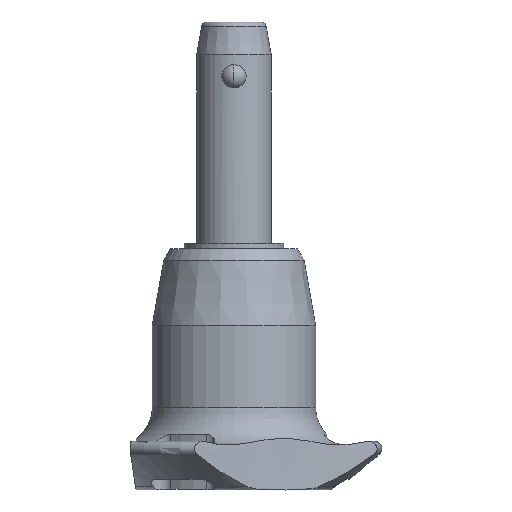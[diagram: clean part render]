
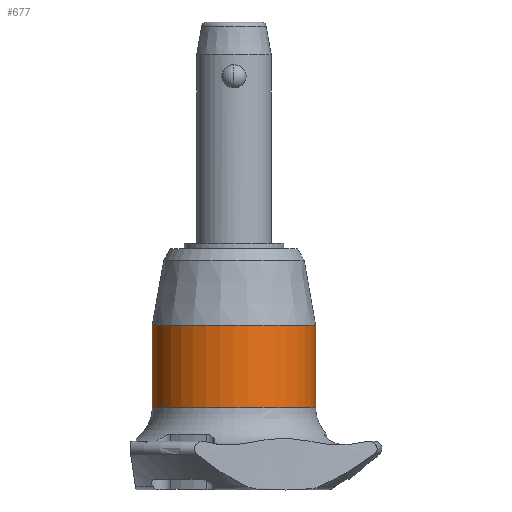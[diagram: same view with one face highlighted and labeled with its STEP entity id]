
A CAD part, front view. The second image highlights one B-rep face of the part: STEP entity #677.
In plain terms, the highlighted cylindrical face has radius 13.15 mm (diameter 26.3 mm), a partial arc.
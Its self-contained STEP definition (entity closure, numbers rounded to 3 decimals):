
#15 = EDGE_CURVE ( 'NONE', #2361, #581, #2679, .T. ) ;
#124 = DIRECTION ( 'NONE',  ( 0., 0., -1. ) ) ;
#129 = ORIENTED_EDGE ( 'NONE', *, *, #2297, .F. ) ;
#136 = CARTESIAN_POINT ( 'NONE',  ( 13.15, 0., -51.467 ) ) ;
#144 = CARTESIAN_POINT ( 'NONE',  ( 13.15, 0., -51.467 ) ) ;
#159 = CIRCLE ( 'NONE', #1628, 13.15 ) ;
#384 = FACE_OUTER_BOUND ( 'NONE', #695, .T. ) ;
#527 = CARTESIAN_POINT ( 'NONE',  ( -13.15, 0., -38.233 ) ) ;
#564 = AXIS2_PLACEMENT_3D ( 'NONE', #2378, #1044, #1762 ) ;
#573 = CARTESIAN_POINT ( 'NONE',  ( 13.15, 0., -38.233 ) ) ;
#574 = LINE ( 'NONE', #136, #1494 ) ;
#581 = VERTEX_POINT ( 'NONE', #1750 ) ;
#677 = ADVANCED_FACE ( 'NONE', ( #384 ), #824, .T. ) ;
#695 = EDGE_LOOP ( 'NONE', ( #2709, #2863, #1670, #129 ) ) ;
#776 = DIRECTION ( 'NONE',  ( -1., 0., 0. ) ) ;
#824 = CYLINDRICAL_SURFACE ( 'NONE', #1942, 13.15 ) ;
#1044 = DIRECTION ( 'NONE',  ( 0., 0., -1. ) ) ;
#1225 = VERTEX_POINT ( 'NONE', #144 ) ;
#1301 = CARTESIAN_POINT ( 'NONE',  ( 0., 0., -51.467 ) ) ;
#1454 = CARTESIAN_POINT ( 'NONE',  ( 0., 0., -51.467 ) ) ;
#1494 = VECTOR ( 'NONE', #2620, 1000. ) ;
#1628 = AXIS2_PLACEMENT_3D ( 'NONE', #1454, #124, #776 ) ;
#1631 = CIRCLE ( 'NONE', #564, 13.15 ) ;
#1651 = DIRECTION ( 'NONE',  ( 0., 0., -1. ) ) ;
#1670 = ORIENTED_EDGE ( 'NONE', *, *, #15, .T. ) ;
#1750 = CARTESIAN_POINT ( 'NONE',  ( -13.15, 0., -51.467 ) ) ;
#1762 = DIRECTION ( 'NONE',  ( -1., 0., 0. ) ) ;
#1767 = EDGE_CURVE ( 'NONE', #2377, #1225, #574, .T. ) ;
#1942 = AXIS2_PLACEMENT_3D ( 'NONE', #1301, #2197, #1947 ) ;
#1947 = DIRECTION ( 'NONE',  ( -1., 0., 0. ) ) ;
#1987 = VECTOR ( 'NONE', #1651, 1000. ) ;
#2197 = DIRECTION ( 'NONE',  ( 0., 0., -1. ) ) ;
#2297 = EDGE_CURVE ( 'NONE', #1225, #581, #159, .T. ) ;
#2361 = VERTEX_POINT ( 'NONE', #527 ) ;
#2377 = VERTEX_POINT ( 'NONE', #573 ) ;
#2378 = CARTESIAN_POINT ( 'NONE',  ( 0., 0., -38.233 ) ) ;
#2531 = CARTESIAN_POINT ( 'NONE',  ( -13.15, 0., -51.467 ) ) ;
#2620 = DIRECTION ( 'NONE',  ( 0., 0., -1. ) ) ;
#2679 = LINE ( 'NONE', #2531, #1987 ) ;
#2709 = ORIENTED_EDGE ( 'NONE', *, *, #1767, .F. ) ;
#2816 = EDGE_CURVE ( 'NONE', #2377, #2361, #1631, .T. ) ;
#2863 = ORIENTED_EDGE ( 'NONE', *, *, #2816, .T. ) ;
